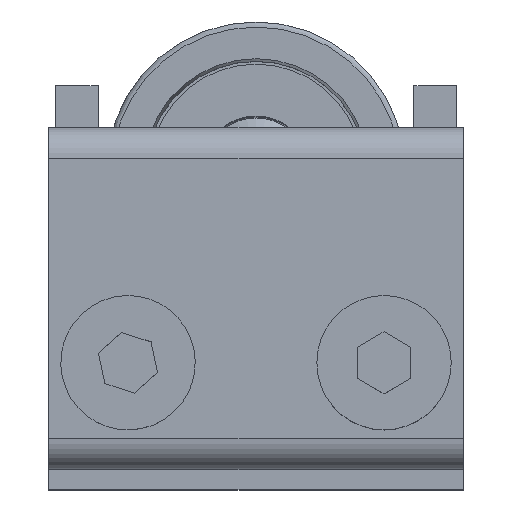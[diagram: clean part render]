
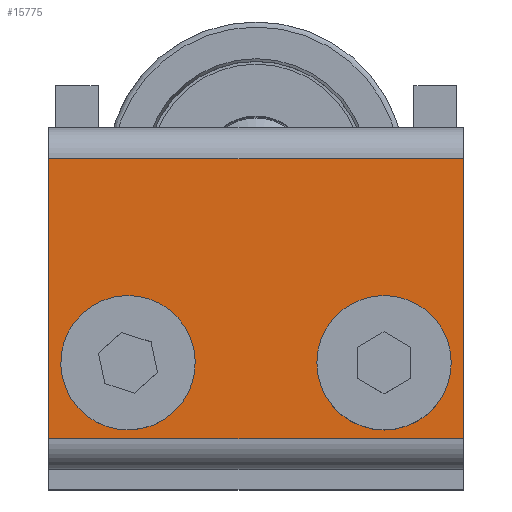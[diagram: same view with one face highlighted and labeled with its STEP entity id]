
A CAD part, top view. The second image highlights one B-rep face of the part: STEP entity #15775.
In plain terms, the highlighted planar face has unit normal (0, 0, 1) as drawn and (0, 0, -1) by its records, which use the part's own axes.
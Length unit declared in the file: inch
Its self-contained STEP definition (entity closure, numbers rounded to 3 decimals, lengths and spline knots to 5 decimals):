
#15492=DIRECTION('',(0.,-1.,0.));
#15493=VECTOR('',#15492,0.82);
#15494=CARTESIAN_POINT('',(0.6075,0.41,-0.18));
#15495=LINE('',#15494,#15493);
#15496=CARTESIAN_POINT('',(0.375,-0.188,-0.18));
#15497=DIRECTION('',(0.,0.,1.));
#15498=DIRECTION('',(1.,0.,0.));
#15499=AXIS2_PLACEMENT_3D('',#15496,#15497,#15498);
#15501=CARTESIAN_POINT('',(0.375,-0.188,-0.18));
#15502=DIRECTION('',(0.,0.,1.));
#15503=DIRECTION('',(-1.,0.,0.));
#15504=AXIS2_PLACEMENT_3D('',#15501,#15502,#15503);
#15506=CARTESIAN_POINT('',(-0.375,-0.188,-0.18));
#15507=DIRECTION('',(0.,0.,1.));
#15508=DIRECTION('',(1.,0.,0.));
#15509=AXIS2_PLACEMENT_3D('',#15506,#15507,#15508);
#15511=CARTESIAN_POINT('',(-0.375,-0.188,-0.18));
#15512=DIRECTION('',(0.,0.,1.));
#15513=DIRECTION('',(-1.,0.,0.));
#15514=AXIS2_PLACEMENT_3D('',#15511,#15512,#15513);
#15546=DIRECTION('',(0.,-1.,0.));
#15547=VECTOR('',#15546,0.82);
#15548=CARTESIAN_POINT('',(-0.6075,0.41,-0.18));
#15549=LINE('',#15548,#15547);
#15576=DIRECTION('',(-1.,0.,0.));
#15577=VECTOR('',#15576,1.215);
#15578=CARTESIAN_POINT('',(0.6075,0.41,-0.18));
#15579=LINE('',#15578,#15577);
#15656=DIRECTION('',(1.,0.,0.));
#15657=VECTOR('',#15656,1.215);
#15658=CARTESIAN_POINT('',(-0.6075,-0.41,-0.18));
#15659=LINE('',#15658,#15657);
#15672=CARTESIAN_POINT('',(-0.5,-0.188,-0.18));
#15673=CARTESIAN_POINT('',(-0.25,-0.188,-0.18));
#15674=VERTEX_POINT('',#15672);
#15675=VERTEX_POINT('',#15673);
#15692=CARTESIAN_POINT('',(0.5,-0.188,-0.18));
#15693=VERTEX_POINT('',#15692);
#15700=CARTESIAN_POINT('',(0.6075,0.41,-0.18));
#15701=CARTESIAN_POINT('',(-0.6075,0.41,-0.18));
#15702=VERTEX_POINT('',#15700);
#15703=VERTEX_POINT('',#15701);
#15704=CARTESIAN_POINT('',(0.6075,-0.41,-0.18));
#15705=VERTEX_POINT('',#15704);
#15706=CARTESIAN_POINT('',(-0.6075,-0.41,-0.18));
#15707=VERTEX_POINT('',#15706);
#15718=CARTESIAN_POINT('',(0.25,-0.188,-0.18));
#15719=VERTEX_POINT('',#15718);
#15750=CARTESIAN_POINT('',(0.6075,0.5,-0.18));
#15751=DIRECTION('',(0.,0.,1.));
#15752=DIRECTION('',(0.,-1.,0.));
#15753=AXIS2_PLACEMENT_3D('',#15750,#15751,#15752);
#15754=PLANE('',#15753);
#15756=ORIENTED_EDGE('',*,*,#15755,.F.);
#15758=ORIENTED_EDGE('',*,*,#15757,.T.);
#15760=ORIENTED_EDGE('',*,*,#15759,.T.);
#15762=ORIENTED_EDGE('',*,*,#15761,.T.);
#15763=EDGE_LOOP('',(#15756,#15758,#15760,#15762));
#15764=FACE_OUTER_BOUND('',#15763,.F.);
#15765=ORIENTED_EDGE('',*,*,#15731,.F.);
#15766=ORIENTED_EDGE('',*,*,#15741,.F.);
#15767=EDGE_LOOP('',(#15765,#15766));
#15768=FACE_BOUND('',#15767,.F.);
#15770=ORIENTED_EDGE('',*,*,#15769,.F.);
#15772=ORIENTED_EDGE('',*,*,#15771,.F.);
#15773=EDGE_LOOP('',(#15770,#15772));
#15774=FACE_BOUND('',#15773,.F.);
#15500=CIRCLE('',#15499,0.125);
#15505=CIRCLE('',#15504,0.125);
#15510=CIRCLE('',#15509,0.125);
#15515=CIRCLE('',#15514,0.125);
#15731=EDGE_CURVE('',#15693,#15719,#15500,.T.);
#15741=EDGE_CURVE('',#15719,#15693,#15505,.T.);
#15755=EDGE_CURVE('',#15702,#15705,#15495,.T.);
#15757=EDGE_CURVE('',#15702,#15703,#15579,.T.);
#15759=EDGE_CURVE('',#15703,#15707,#15549,.T.);
#15761=EDGE_CURVE('',#15707,#15705,#15659,.T.);
#15769=EDGE_CURVE('',#15675,#15674,#15510,.T.);
#15771=EDGE_CURVE('',#15674,#15675,#15515,.T.);
#15775=ADVANCED_FACE('',(#15764,#15768,#15774),#15754,.F.);
